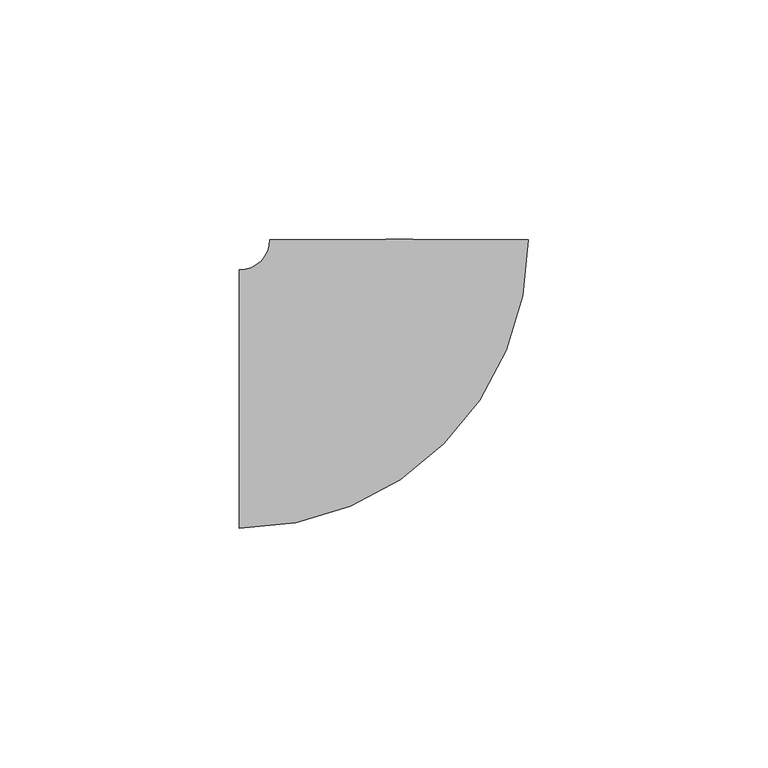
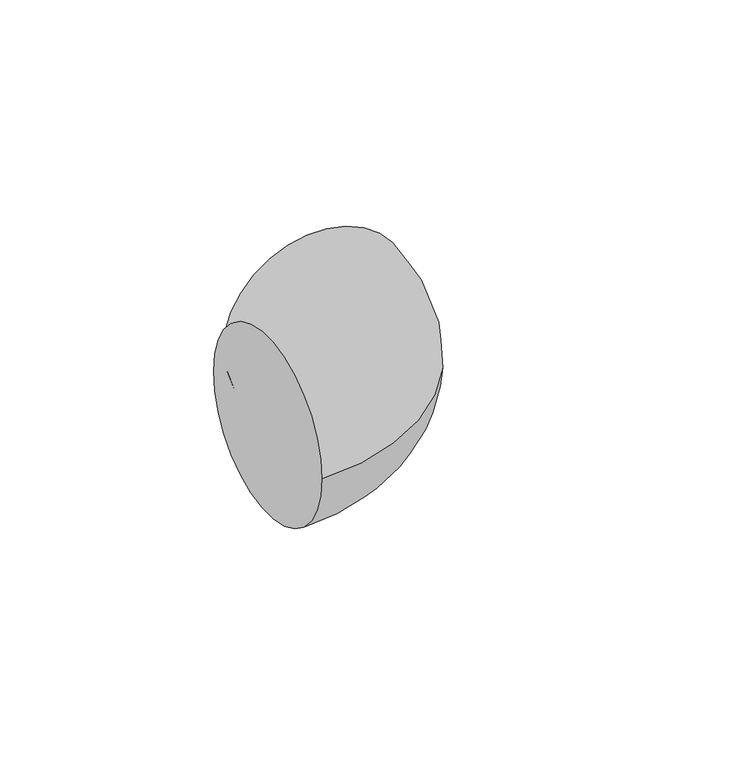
"""IFC4 building model written with IfcOpenShell, lengths in millimetres: pipe fitting geometry, M_Codo - Genérico : Estándar."""

from ifc_helpers import new_model, si_unit, point, frame, origin, place, context, project, spatial, circle_curve, ellipse_curve, trimmed, source, transform, mapped, element, save
from ifc_brep_helpers import plane_surface, revolved_surface, advanced_brep


def pipe_fitting_36ea70a5(model_context):
    return source(origin(), model_context, "Body", "AdvancedBrep", [
        advanced_brep(
        [(-33.3375, -26.9875, 0.0), (-33.3375, 26.9875, 0.0), (26.9875, 33.3375, 0.0), (-26.9875, 33.3375, 0.0)],
        [
            (0, 1, circle_curve(frame((-33.3375, 0.0, 0.0), z_axis=(-1.0, 0.0, 0.0), x_axis=(0.0, 1.0, 0.0)), 26.9875)),
            (1, 0, circle_curve(frame((-33.3375, 0.0, 0.0), z_axis=(-1.0, 0.0, 0.0), x_axis=(0.0, 1.0, 0.0)), 26.9875)),
            (2, 3, circle_curve(frame((0.0, 33.3375, 0.0), z_axis=(0.0, 1.0, 0.0), x_axis=(-1.0, 0.0, 0.0)), 26.9875)),
            (3, 2, circle_curve(frame((0.0, 33.3375, 0.0), z_axis=(0.0, 1.0, 0.0), x_axis=(-1.0, 0.0, 0.0)), 26.9875)),
            (3, 1, circle_curve(frame((-33.3375, 33.3375, 0.0), z_axis=(0.0, 0.0, -1.0), x_axis=(0.0, -1.0, 0.0)), 6.35)),
            (0, 2, circle_curve(frame((-33.3375, 33.3375, 0.0), z_axis=(0.0, 0.0, 1.0), x_axis=(0.0, -1.0, 0.0)), 60.325)),
        ],
        [
            plane_surface(frame((-33.3375, 0.0, 0.0), z_axis=(-1.0, 0.0, 0.0), x_axis=(0.0, 0.0, 1.0))),
            plane_surface(frame((0.0, 33.3375, 0.0), z_axis=(0.0, 1.0, 0.0), x_axis=(0.0, 0.0, 1.0))),
            revolved_surface(trimmed(ellipse_curve(frame((-33.3375, 0.0, 0.0), z_axis=(-1.0, 0.0, 0.0), x_axis=(0.0, 1.0, 0.0)), 26.9875, 26.9875), [point((-33.3375, -26.9875, 0.0))], [point((-33.3375, 26.9875, 0.0))], True, "CARTESIAN"), (-33.3375, 33.3375, 0.0), (0.0, 0.0, 1.0)),
            revolved_surface(trimmed(ellipse_curve(frame((-33.3375, 0.0, 0.0), z_axis=(-1.0, 0.0, 0.0), x_axis=(0.0, 1.0, 0.0)), 26.9875, 26.9875), [point((-33.3375, 26.9875, 0.0))], [point((-33.3375, -26.9875, 0.0))], True, "CARTESIAN"), (-33.3375, 33.3375, 0.0), (0.0, 0.0, 1.0)),
        ],
        [
            (0, [[1, 2]]),
            (1, [[3, 4]]),
            (2, [[5, -1, 6, -4]]),
            (3, [[-6, -2, -5, -3]]),
        ],
    ),
    ])


if __name__ == "__main__":
    model = new_model("IFC4")
    model_context = context("Model", 3, world=origin())
    ifc_project = project(units=[si_unit("LENGTHUNIT", "METRE", prefix="MILLI")], contexts=[model_context])
    site = spatial("IfcSite", under=ifc_project)
    building = spatial("IfcBuilding", under=site)
    placement = place(None, origin())
    pipe_fitting_shape = pipe_fitting_36ea70a5(model_context)
    element("IfcPipeFitting", 1, ObjectType="M_Codo - Genérico : Estándar", at=placement, inside=building, context=model_context, shape_type="MappedRepresentation", body=[
        mapped(pipe_fitting_shape, transform((0.0, 0.0, 0.0), x_axis=(1.0, 0.0, 0.0), y_axis=(0.0, 1.0, 0.0), z_axis=(0.0, 0.0, 1.0))),
    ])
    save(model, "model.ifc")
